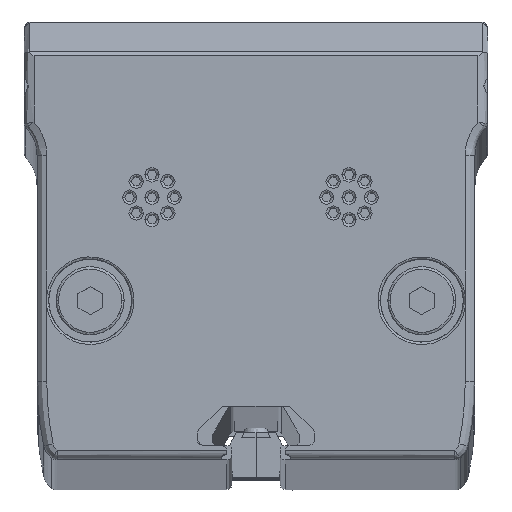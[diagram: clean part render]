
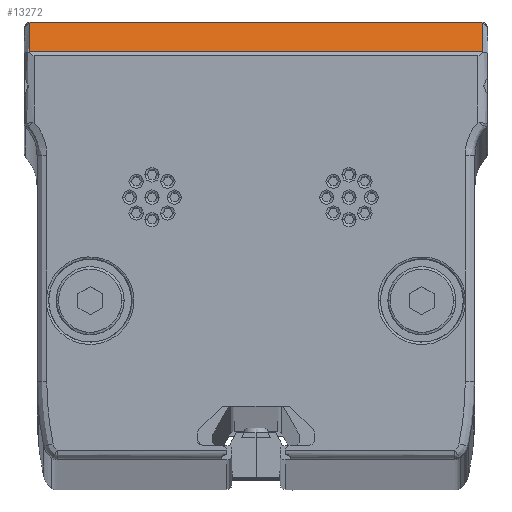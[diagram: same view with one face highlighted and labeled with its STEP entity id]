
A CAD part, top view. The second image highlights one B-rep face of the part: STEP entity #13272.
In plain terms, the highlighted planar face has unit normal (0, 0.858, 0.514).
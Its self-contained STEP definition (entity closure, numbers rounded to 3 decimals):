
#310 = VECTOR ( 'NONE', #17211, 1000. ) ;
#422 = LINE ( 'NONE', #18778, #15128 ) ;
#546 = CARTESIAN_POINT ( 'NONE',  ( 23.315, 19.287, 1760.15 ) ) ;
#555 = ORIENTED_EDGE ( 'NONE', *, *, #9345, .T. ) ;
#621 = EDGE_CURVE ( 'NONE', #18259, #17124, #7662, .T. ) ;
#1252 = EDGE_LOOP ( 'NONE', ( #25414, #13724, #16223, #555, #23444, #16787, #20333 ) ) ;
#1780 = CARTESIAN_POINT ( 'NONE',  ( -23.315, 22.329, 1755.08 ) ) ;
#1796 = PLANE ( 'NONE',  #23691 ) ;
#3639 =( BOUNDED_CURVE ( )  B_SPLINE_CURVE ( 3, ( #9573, #17079, #12412, #26285 ),
 .UNSPECIFIED., .F., .F. ) 
 B_SPLINE_CURVE_WITH_KNOTS ( ( 4, 4 ),
 ( 6.283, 6.283 ),
 .UNSPECIFIED. ) 
 CURVE ( )  GEOMETRIC_REPRESENTATION_ITEM ( )  RATIONAL_B_SPLINE_CURVE ( ( 1., 1., 1., 1. ) ) 
 REPRESENTATION_ITEM ( '' )  );
#3826 = CARTESIAN_POINT ( 'NONE',  ( 23.82, 19.433, 1759.907 ) ) ;
#4211 = CARTESIAN_POINT ( 'NONE',  ( 23.215, 22.429, 1754.914 ) ) ;
#7224 = DIRECTION ( 'NONE',  ( -1., 0., 0. ) ) ;
#7344 = EDGE_CURVE ( 'NONE', #18316, #20707, #19987, .T. ) ;
#7435 = EDGE_CURVE ( 'NONE', #10728, #18316, #21023, .T. ) ;
#7662 =( BOUNDED_CURVE ( )  B_SPLINE_CURVE ( 3, ( #20144, #29503, #12886, #1780 ),
 .UNSPECIFIED., .F., .F. ) 
 B_SPLINE_CURVE_WITH_KNOTS ( ( 4, 4 ),
 ( 0., 1.571 ),
 .UNSPECIFIED. ) 
 CURVE ( )  GEOMETRIC_REPRESENTATION_ITEM ( )  RATIONAL_B_SPLINE_CURVE ( ( 1., 0.805, 0.805, 1. ) ) 
 REPRESENTATION_ITEM ( '' )  );
#8040 = LINE ( 'NONE', #3826, #310 ) ;
#9345 = EDGE_CURVE ( 'NONE', #20707, #13183, #3639, .T. ) ;
#9573 = CARTESIAN_POINT ( 'NONE',  ( 23.215, 22.429, 1754.914 ) ) ;
#10218 = VECTOR ( 'NONE', #7224, 1000. ) ;
#10728 = VERTEX_POINT ( 'NONE', #21004 ) ;
#10932 = CARTESIAN_POINT ( 'NONE',  ( -23.315, 19.433, 1759.907 ) ) ;
#10953 = DIRECTION ( 'NONE',  ( 0., -0.857, -0.514 ) ) ;
#12338 = CARTESIAN_POINT ( 'NONE',  ( -23.215, 22.429, 1754.914 ) ) ;
#12412 = CARTESIAN_POINT ( 'NONE',  ( 23.215, 22.429, 1754.914 ) ) ;
#12488 = VERTEX_POINT ( 'NONE', #10932 ) ;
#12886 = CARTESIAN_POINT ( 'NONE',  ( -23.315, 22.387, 1754.983 ) ) ;
#13183 = VERTEX_POINT ( 'NONE', #4211 ) ;
#13272 = ADVANCED_FACE ( 'NONE', ( #27714 ), #1796, .F. ) ;
#13724 = ORIENTED_EDGE ( 'NONE', *, *, #7435, .T. ) ;
#14867 = CARTESIAN_POINT ( 'NONE',  ( 23.315, 22.329, 1755.08 ) ) ;
#15128 = VECTOR ( 'NONE', #21051, 1000. ) ;
#16223 = ORIENTED_EDGE ( 'NONE', *, *, #7344, .T. ) ;
#16457 = EDGE_CURVE ( 'NONE', #12488, #10728, #8040, .T. ) ;
#16787 = ORIENTED_EDGE ( 'NONE', *, *, #621, .T. ) ;
#17079 = CARTESIAN_POINT ( 'NONE',  ( 23.215, 22.429, 1754.914 ) ) ;
#17124 = VERTEX_POINT ( 'NONE', #21099 ) ;
#17211 = DIRECTION ( 'NONE',  ( 1., 0., 0. ) ) ;
#18259 = VERTEX_POINT ( 'NONE', #12338 ) ;
#18316 = VERTEX_POINT ( 'NONE', #14867 ) ;
#18778 = CARTESIAN_POINT ( 'NONE',  ( -23.315, 19.287, 1760.15 ) ) ;
#19987 =( BOUNDED_CURVE ( )  B_SPLINE_CURVE ( 3, ( #28765, #21977, #29204, #21835 ),
 .UNSPECIFIED., .F., .F. ) 
 B_SPLINE_CURVE_WITH_KNOTS ( ( 4, 4 ),
 ( 4.712, 6.283 ),
 .UNSPECIFIED. ) 
 CURVE ( )  GEOMETRIC_REPRESENTATION_ITEM ( )  RATIONAL_B_SPLINE_CURVE ( ( 1., 0.805, 0.805, 1. ) ) 
 REPRESENTATION_ITEM ( '' )  );
#20144 = CARTESIAN_POINT ( 'NONE',  ( -23.215, 22.429, 1754.914 ) ) ;
#20160 = CARTESIAN_POINT ( 'NONE',  ( 23.82, 19.287, 1760.15 ) ) ;
#20333 = ORIENTED_EDGE ( 'NONE', *, *, #28522, .T. ) ;
#20707 = VERTEX_POINT ( 'NONE', #27294 ) ;
#21004 = CARTESIAN_POINT ( 'NONE',  ( 23.315, 19.433, 1759.907 ) ) ;
#21023 = LINE ( 'NONE', #546, #24950 ) ;
#21051 = DIRECTION ( 'NONE',  ( 0., -0.514, 0.857 ) ) ;
#21099 = CARTESIAN_POINT ( 'NONE',  ( -23.315, 22.329, 1755.08 ) ) ;
#21835 = CARTESIAN_POINT ( 'NONE',  ( 23.215, 22.429, 1754.914 ) ) ;
#21977 = CARTESIAN_POINT ( 'NONE',  ( 23.315, 22.387, 1754.983 ) ) ;
#23121 = EDGE_CURVE ( 'NONE', #13183, #18259, #27884, .T. ) ;
#23444 = ORIENTED_EDGE ( 'NONE', *, *, #23121, .T. ) ;
#23691 = AXIS2_PLACEMENT_3D ( 'NONE', #20160, #10953, #27092 ) ;
#23795 = CARTESIAN_POINT ( 'NONE',  ( -23.215, 22.429, 1754.914 ) ) ;
#24950 = VECTOR ( 'NONE', #24983, 1000. ) ;
#24983 = DIRECTION ( 'NONE',  ( 0., 0.514, -0.857 ) ) ;
#25414 = ORIENTED_EDGE ( 'NONE', *, *, #16457, .T. ) ;
#26285 = CARTESIAN_POINT ( 'NONE',  ( 23.215, 22.429, 1754.914 ) ) ;
#27092 = DIRECTION ( 'NONE',  ( 0., 0.514, -0.857 ) ) ;
#27294 = CARTESIAN_POINT ( 'NONE',  ( 23.215, 22.429, 1754.914 ) ) ;
#27714 = FACE_OUTER_BOUND ( 'NONE', #1252, .T. ) ;
#27884 = LINE ( 'NONE', #23795, #10218 ) ;
#28522 = EDGE_CURVE ( 'NONE', #17124, #12488, #422, .T. ) ;
#28765 = CARTESIAN_POINT ( 'NONE',  ( 23.315, 22.329, 1755.08 ) ) ;
#29204 = CARTESIAN_POINT ( 'NONE',  ( 23.274, 22.429, 1754.914 ) ) ;
#29503 = CARTESIAN_POINT ( 'NONE',  ( -23.274, 22.429, 1754.914 ) ) ;
